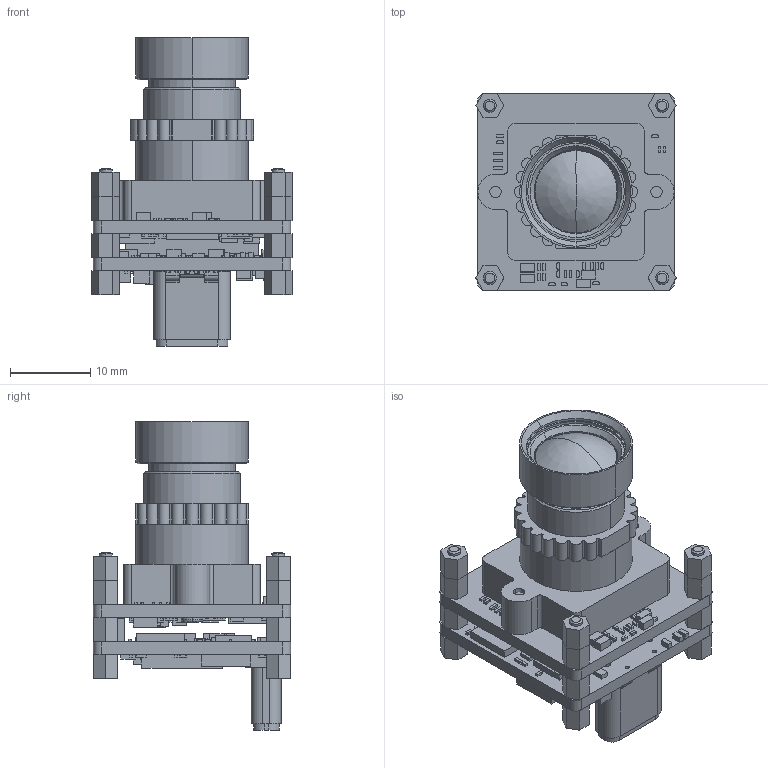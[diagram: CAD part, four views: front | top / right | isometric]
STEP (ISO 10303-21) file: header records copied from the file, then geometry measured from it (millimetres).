
FILE_DESCRIPTION((''),'2;1');
FILE_NAME('UVCI-AR0234-TYPEC-3D-B1_230531_ASM','2023-06-01T17:28:18',('eric.wang'),(''),'CREO PARAMETRIC BY PTC INC, 2022124','CREO PARAMETRIC BY PTC INC, 2022124','');
FILE_SCHEMA(('AUTOMOTIVE_DESIGN { 1 0 10303 214 1 1 1 1 }'));
Products named in the file (54): M1_6X3_NUT_SCREW_6_1_1; TN255-PCB_6_1_1; CONN_DF40C-60DP-04V_4_1_1; CONN_DF40HC-70DS-04V_5_1_1; MSBR-4_4_1_1; MSBR-3_4_1_1; MSBR-2_4_1_1; MSBR-1_4_1_1; UT1411C-1940F-7H_ASM_5_ASM_1_AS_ASM; L_HMLQ25201B_255_1_1_1; SOT563_6_255_1_1_1; SSW_RENE_JM2002-02FQR_D7_255_1_; DQA_R-PUSON-N10_255_1_1_1; STP24X50_255_1_1_1; QFN30_D4_2D5X4D5XD8_255_1_1_1; DFN6_D4X1D4X1D35XD5_1_255_1_1_1; SOSC4_CX2016DB_255_1_1_1; SM1206C_255_1_1_1; SM0402C_255_1_1_1; 0201_RR_012SM_255_1_1_1; SM0402L_255_1_1_1; 0201_CC_012SM_255_1_1_1; 0201_3P_255_1_1_1; DFN8_1D27_6X5X1_255_1_1_1; SON8_D65X3X3X1_255_1_1_1; BGA121_D8_10X10X1D7_255_1_1_1; VIZIONCAM-USB3C-UVC_REVA2_ASM_4_ASM; TN255-ASM_ASM_72_ASM_1_ASM_1_ASM; M1_6X3_NUT_2_1_1; ISP-PCBA-TYPEC-ASM_ASM_37_ASM_1_ASM; TN272_4_1; CONN_DF40C-70DP-04V_4_1; AR0234CS-D_3_1; L_HMLQ25201B_272_1_1; SC70_6_2722_1_1; SOT563_6_272_1_1; SOP8_D65X6D4X1D2_272_1_1; BGA120_AP1302_272_1_1; BGA83_AR0234CS_272_1_1; SM0402C_272_1_1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
Assembly tree (297 placements, depth 6):
  UVCI-AR0234-TYPEC-3D-B1_230531_ASM
    ISP-PCBA-TYPEC-ASM_ASM_37_ASM_1_ASM
      M1_6X3_NUT_SCREW_6_1_1  x12
      TN255-ASM_ASM_72_ASM_1_ASM_1_ASM
        TN255-PCB_6_1_1
        CONN_DF40C-60DP-04V_4_1_1
        CONN_DF40HC-70DS-04V_5_1_1
        UT1411C-1940F-7H_ASM_5_ASM_1_AS_ASM
          MSBR-4_4_1_1
          MSBR-3_4_1_1
          MSBR-2_4_1_1
          MSBR-1_4_1_1
        VIZIONCAM-USB3C-UVC_REVA2_ASM_4_ASM
          L_HMLQ25201B_255_1_1_1  x2
          SOT563_6_255_1_1_1  x2
          SSW_RENE_JM2002-02FQR_D7_255_1_
          DQA_R-PUSON-N10_255_1_1_1  x2
          STP24X50_255_1_1_1  x3
          QFN30_D4_2D5X4D5XD8_255_1_1_1
          DFN6_D4X1D4X1D35XD5_1_255_1_1_1
          SOSC4_CX2016DB_255_1_1_1  x3
          SM1206C_255_1_1_1
          SM0402C_255_1_1_1  x13
          0201_RR_012SM_255_1_1_1  x39
          SM0402L_255_1_1_1  x6
          0201_CC_012SM_255_1_1_1  x50
          0201_3P_255_1_1_1  x3
          DFN8_1D27_6X5X1_255_1_1_1
          SON8_D65X3X3X1_255_1_1_1  x2
          BGA121_D8_10X10X1D7_255_1_1_1
      M1_6X3_NUT_2_1_1  x4
    TEVI-AR0234-HOLDER-3D-B1_230426_ASM
      TEVI-ASM_ASM_62_ASM_1_ASM
        TN272-ASM_ASM_28_ASM_1_ASM
          TN272_4_1
          CONN_DF40C-70DP-04V_4_1
          AR0234CS-D_3_1
          TEVI-AR0234_REVB1_0412B_ASM_2_A_ASM
            L_HMLQ25201B_272_1_1
            SC70_6_2722_1_1
            SOT563_6_272_1_1
            SOP8_D65X6D4X1D2_272_1_1
            BGA120_AP1302_272_1_1
            BGA83_AR0234CS_272_1_1
            SM0402C_272_1_1  x14
            0201_CC_012SM_272_1_1  x60
            SM0402L_2722_1_1  x10
            0201_RR_012SM_2722_1_1  x32
            0201_3P_2722_1_1  x3
            SOSC4_CX2016DB_2722_1_1  x2
          MTV-039B125_5MP__3_1
        SCREW_M17X6_2_1  x2
        LP-M12H2010P_1_1
        LENS-LOCK-RING_3_1
Bounding box: 24.86 x 24.5 x 38.33 mm (x, y, z)
Volume: 5496.7 mm3; surface area: 10573 mm2
Topology: 289 solids, 291 shells, 4102 faces, 11628 edges, 8246 vertices
Faces by surface type: plane 3615, cylinder 402, cone 62, torus 12, sphere 9, revolution 2
Entity records: 74908 total; most frequent: DIRECTION 9900, CARTESIAN_POINT 9180, ORIENTED_EDGE 5530, PRESENTATION_STYLE_ASSIGNMENT 3856, STYLED_ITEM 3856, CURVE_STYLE 3722, AXIS2_PLACEMENT_3D 3262, VECTOR 3220
